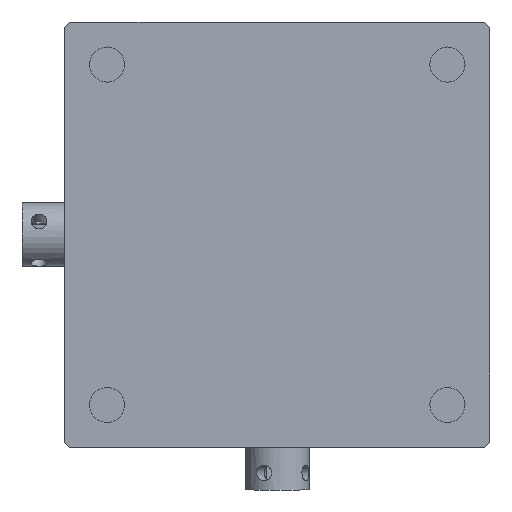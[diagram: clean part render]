
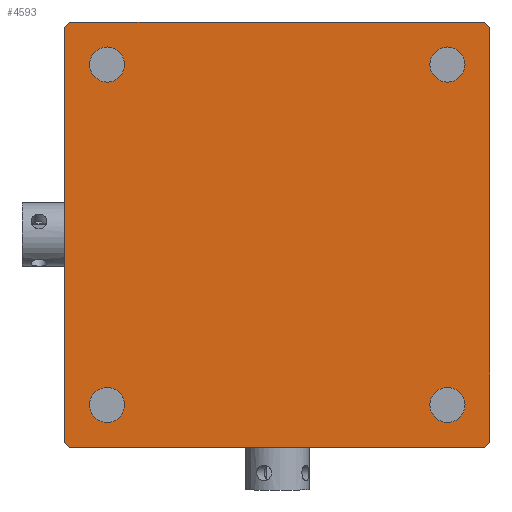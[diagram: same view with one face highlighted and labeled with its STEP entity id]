
A CAD part, front view. The second image highlights one B-rep face of the part: STEP entity #4593.
In plain terms, the highlighted planar face has unit normal (0, -1, 0).
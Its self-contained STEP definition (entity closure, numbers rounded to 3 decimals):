
#10 = ORIENTED_EDGE ( 'NONE', *, *, #2984, .T. ) ;
#170 = DIRECTION ( 'NONE',  ( 0., 1., 0. ) ) ;
#206 = CARTESIAN_POINT ( 'NONE',  ( 40., 0., -19.5 ) ) ;
#264 = VECTOR ( 'NONE', #1456, 1000. ) ;
#324 = VECTOR ( 'NONE', #4686, 1000. ) ;
#339 = VERTEX_POINT ( 'NONE', #6039 ) ;
#359 = DIRECTION ( 'NONE',  ( -1., 0., 0. ) ) ;
#417 = DIRECTION ( 'NONE',  ( -0.707, 0., -0.707 ) ) ;
#610 = VERTEX_POINT ( 'NONE', #6612 ) ;
#734 = VECTOR ( 'NONE', #359, 1000. ) ;
#804 = ORIENTED_EDGE ( 'NONE', *, *, #1077, .T. ) ;
#972 = ORIENTED_EDGE ( 'NONE', *, *, #6593, .T. ) ;
#1077 = EDGE_CURVE ( 'NONE', #4711, #339, #1782, .T. ) ;
#1253 = EDGE_CURVE ( 'NONE', #5631, #4711, #7515, .T. ) ;
#1340 = CARTESIAN_POINT ( 'NONE',  ( 40., 0., 19.5 ) ) ;
#1456 = DIRECTION ( 'NONE',  ( 0.707, 0., 0.707 ) ) ;
#1459 = FACE_BOUND ( 'NONE', #7748, .T. ) ;
#1500 = VERTEX_POINT ( 'NONE', #6232 ) ;
#1573 = FACE_BOUND ( 'NONE', #3742, .T. ) ;
#1695 = ORIENTED_EDGE ( 'NONE', *, *, #4243, .F. ) ;
#1720 = CARTESIAN_POINT ( 'NONE',  ( 0., 0., 19.5 ) ) ;
#1782 = LINE ( 'NONE', #6603, #5301 ) ;
#2040 = VECTOR ( 'NONE', #417, 1000. ) ;
#2177 = CIRCLE ( 'NONE', #5072, 1.65 ) ;
#2240 = EDGE_CURVE ( 'NONE', #4259, #4259, #2177, .T. ) ;
#2258 = EDGE_LOOP ( 'NONE', ( #7488 ) ) ;
#2284 = LINE ( 'NONE', #3440, #324 ) ;
#2312 = VERTEX_POINT ( 'NONE', #4720 ) ;
#2320 = CARTESIAN_POINT ( 'NONE',  ( 4., 0., 16. ) ) ;
#2441 = DIRECTION ( 'NONE',  ( 0., 0., 1. ) ) ;
#2446 = LINE ( 'NONE', #1340, #4712 ) ;
#2455 = AXIS2_PLACEMENT_3D ( 'NONE', #6948, #3312, #5080 ) ;
#2525 = ORIENTED_EDGE ( 'NONE', *, *, #7363, .T. ) ;
#2567 = CARTESIAN_POINT ( 'NONE',  ( 36., 0., -16. ) ) ;
#2602 = VERTEX_POINT ( 'NONE', #5634 ) ;
#2680 = CARTESIAN_POINT ( 'NONE',  ( 36., 0., 16. ) ) ;
#2744 = EDGE_LOOP ( 'NONE', ( #2525, #3976, #804, #4758, #6140, #6999, #1695, #5332 ) ) ;
#2984 = EDGE_CURVE ( 'NONE', #1500, #1500, #7426, .T. ) ;
#3006 = VERTEX_POINT ( 'NONE', #5521 ) ;
#3209 = CARTESIAN_POINT ( 'NONE',  ( 40., 0., 20. ) ) ;
#3312 = DIRECTION ( 'NONE',  ( 0., 1., 0. ) ) ;
#3407 = CARTESIAN_POINT ( 'NONE',  ( 0.5, 0., 20. ) ) ;
#3440 = CARTESIAN_POINT ( 'NONE',  ( 0.5, 0., -20. ) ) ;
#3447 = EDGE_CURVE ( 'NONE', #4430, #3710, #4489, .T. ) ;
#3487 = CARTESIAN_POINT ( 'NONE',  ( 0.5, 0., 20. ) ) ;
#3544 = EDGE_CURVE ( 'NONE', #2602, #2602, #4902, .T. ) ;
#3621 = CARTESIAN_POINT ( 'NONE',  ( 40., 0., -19.5 ) ) ;
#3710 = VERTEX_POINT ( 'NONE', #3621 ) ;
#3734 = ORIENTED_EDGE ( 'NONE', *, *, #3544, .T. ) ;
#3742 = EDGE_LOOP ( 'NONE', ( #972 ) ) ;
#3745 = CARTESIAN_POINT ( 'NONE',  ( 4., 0., -16. ) ) ;
#3868 = FACE_OUTER_BOUND ( 'NONE', #2744, .T. ) ;
#3971 = LINE ( 'NONE', #7716, #734 ) ;
#3976 = ORIENTED_EDGE ( 'NONE', *, *, #1253, .T. ) ;
#4080 = DIRECTION ( 'NONE',  ( 0., 0., -1. ) ) ;
#4243 = EDGE_CURVE ( 'NONE', #3006, #3710, #7481, .T. ) ;
#4259 = VERTEX_POINT ( 'NONE', #6073 ) ;
#4268 = DIRECTION ( 'NONE',  ( 0., 0., 1. ) ) ;
#4333 = DIRECTION ( 'NONE',  ( -0.707, 0., 0.707 ) ) ;
#4378 = EDGE_CURVE ( 'NONE', #339, #610, #2284, .T. ) ;
#4430 = VERTEX_POINT ( 'NONE', #5554 ) ;
#4441 = DIRECTION ( 'NONE',  ( -1., 0., 0. ) ) ;
#4452 = FACE_BOUND ( 'NONE', #6194, .T. ) ;
#4466 = EDGE_CURVE ( 'NONE', #3006, #4687, #2446, .T. ) ;
#4471 = DIRECTION ( 'NONE',  ( 0., 0., -1. ) ) ;
#4489 = LINE ( 'NONE', #206, #264 ) ;
#4492 = FACE_BOUND ( 'NONE', #2258, .T. ) ;
#4593 = ADVANCED_FACE ( 'NONE', ( #4492, #4452, #1459, #1573, #3868 ), #5158, .F. ) ;
#4686 = DIRECTION ( 'NONE',  ( 0.707, 0., -0.707 ) ) ;
#4687 = VERTEX_POINT ( 'NONE', #6901 ) ;
#4711 = VERTEX_POINT ( 'NONE', #1720 ) ;
#4712 = VECTOR ( 'NONE', #4333, 1000. ) ;
#4720 = CARTESIAN_POINT ( 'NONE',  ( 4., 0., 17.65 ) ) ;
#4727 = DIRECTION ( 'NONE',  ( 0., 1., 0. ) ) ;
#4758 = ORIENTED_EDGE ( 'NONE', *, *, #4378, .T. ) ;
#4759 = AXIS2_PLACEMENT_3D ( 'NONE', #2320, #4727, #7185 ) ;
#4902 = CIRCLE ( 'NONE', #6548, 1.65 ) ;
#5028 = LINE ( 'NONE', #5664, #5775 ) ;
#5072 = AXIS2_PLACEMENT_3D ( 'NONE', #3745, #6143, #2441 ) ;
#5077 = DIRECTION ( 'NONE',  ( 0., 0., 1. ) ) ;
#5080 = DIRECTION ( 'NONE',  ( 0., 0., 1. ) ) ;
#5085 = VECTOR ( 'NONE', #4471, 1000. ) ;
#5158 = PLANE ( 'NONE',  #2455 ) ;
#5301 = VECTOR ( 'NONE', #4080, 1000. ) ;
#5332 = ORIENTED_EDGE ( 'NONE', *, *, #4466, .T. ) ;
#5390 = CIRCLE ( 'NONE', #4759, 1.65 ) ;
#5521 = CARTESIAN_POINT ( 'NONE',  ( 40., 0., 19.5 ) ) ;
#5554 = CARTESIAN_POINT ( 'NONE',  ( 39.5, 0., -20. ) ) ;
#5631 = VERTEX_POINT ( 'NONE', #3487 ) ;
#5634 = CARTESIAN_POINT ( 'NONE',  ( 36., 0., 17.65 ) ) ;
#5664 = CARTESIAN_POINT ( 'NONE',  ( 40., 0., -20. ) ) ;
#5775 = VECTOR ( 'NONE', #4441, 1000. ) ;
#6039 = CARTESIAN_POINT ( 'NONE',  ( 0., 0., -19.5 ) ) ;
#6073 = CARTESIAN_POINT ( 'NONE',  ( 4., 0., -14.35 ) ) ;
#6140 = ORIENTED_EDGE ( 'NONE', *, *, #7192, .F. ) ;
#6143 = DIRECTION ( 'NONE',  ( 0., 1., 0. ) ) ;
#6194 = EDGE_LOOP ( 'NONE', ( #10 ) ) ;
#6232 = CARTESIAN_POINT ( 'NONE',  ( 36., 0., -14.35 ) ) ;
#6308 = DIRECTION ( 'NONE',  ( 0., 1., 0. ) ) ;
#6548 = AXIS2_PLACEMENT_3D ( 'NONE', #2680, #6308, #5077 ) ;
#6593 = EDGE_CURVE ( 'NONE', #2312, #2312, #5390, .T. ) ;
#6603 = CARTESIAN_POINT ( 'NONE',  ( 0., 0., 20. ) ) ;
#6612 = CARTESIAN_POINT ( 'NONE',  ( 0.5, 0., -20. ) ) ;
#6901 = CARTESIAN_POINT ( 'NONE',  ( 39.5, 0., 20. ) ) ;
#6948 = CARTESIAN_POINT ( 'NONE',  ( 40., 0., 20. ) ) ;
#6999 = ORIENTED_EDGE ( 'NONE', *, *, #3447, .T. ) ;
#7185 = DIRECTION ( 'NONE',  ( 0., 0., 1. ) ) ;
#7192 = EDGE_CURVE ( 'NONE', #4430, #610, #5028, .T. ) ;
#7309 = AXIS2_PLACEMENT_3D ( 'NONE', #2567, #170, #4268 ) ;
#7363 = EDGE_CURVE ( 'NONE', #4687, #5631, #3971, .T. ) ;
#7426 = CIRCLE ( 'NONE', #7309, 1.65 ) ;
#7481 = LINE ( 'NONE', #3209, #5085 ) ;
#7488 = ORIENTED_EDGE ( 'NONE', *, *, #2240, .T. ) ;
#7515 = LINE ( 'NONE', #3407, #2040 ) ;
#7716 = CARTESIAN_POINT ( 'NONE',  ( 40., 0., 20. ) ) ;
#7748 = EDGE_LOOP ( 'NONE', ( #3734 ) ) ;
